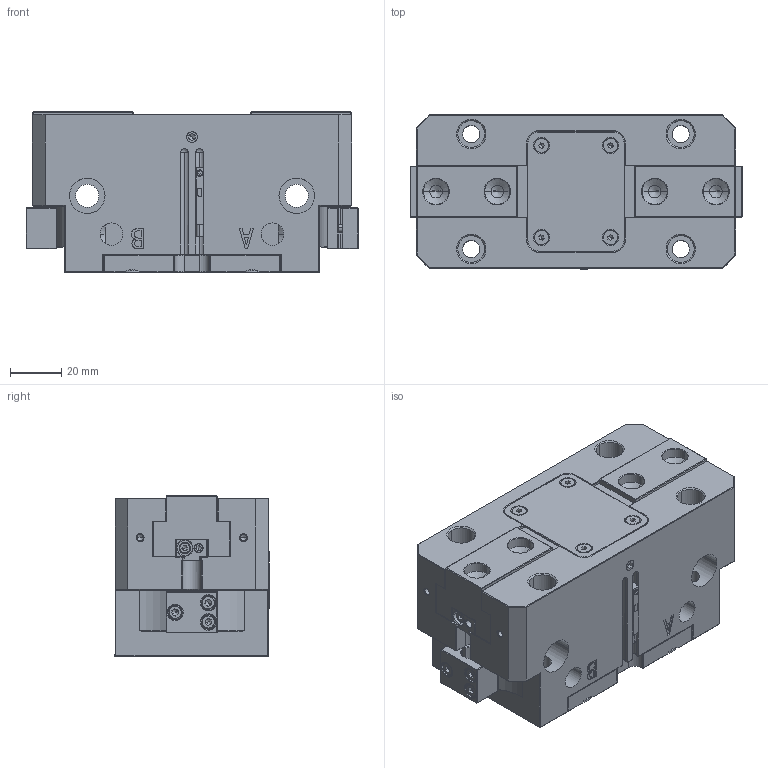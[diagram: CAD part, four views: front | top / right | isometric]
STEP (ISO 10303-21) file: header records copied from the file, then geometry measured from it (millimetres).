
FILE_DESCRIPTION (( 'STEP AP214' ), '1' );
FILE_NAME ('FPT-125A-1×°Åä.STEP', '2024-09-03T09:15:02', ( '' ), ( '' ), 'SwSTEP 2.0', 'SolidWorks 2018', '' );
FILE_SCHEMA (( 'AUTOMOTIVE_DESIGN' ));
Length unit declared in the file: millimetre
Products named in the file (1): FPT-125A-1蚾饜
Bounding box: 130 x 60.61 x 63 mm (x, y, z)
Volume: 376508.4 mm3; surface area: 75833.7 mm2
Topology: 1 solids, 31 shells, 1857 faces, 4461 edges, 2646 vertices
Faces by surface type: plane 1015, cone 406, cylinder 362, bspline 48, torus 22, sphere 4
Entity records: 67793 total; most frequent: CARTESIAN_POINT 13239, DIRECTION 9125, ORIENTED_EDGE 8718, EDGE_CURVE 4359, AXIS2_PLACEMENT_3D 3182, LINE 2761, VECTOR 2761, VERTEX_POINT 2646
